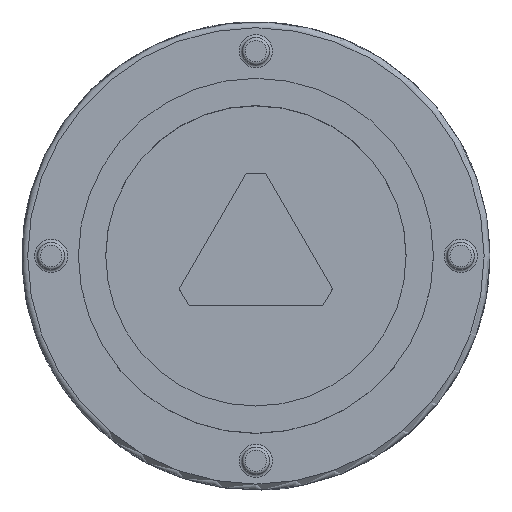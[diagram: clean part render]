
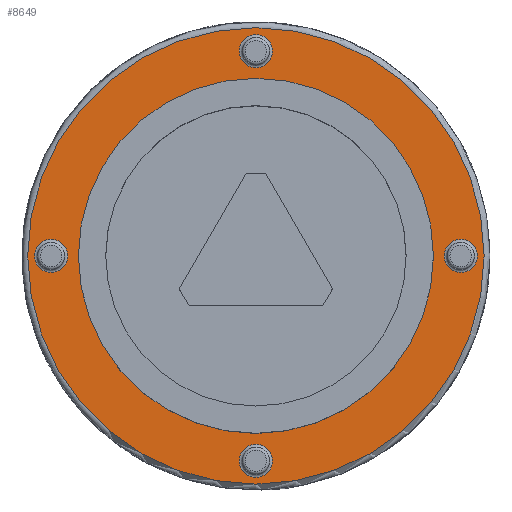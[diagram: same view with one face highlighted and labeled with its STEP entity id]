
A CAD part, top view. The second image highlights one B-rep face of the part: STEP entity #8649.
In plain terms, the highlighted planar face has unit normal (0, 0, 1).
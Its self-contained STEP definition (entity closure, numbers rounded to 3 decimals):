
#189 = FACE_BOUND ( 'NONE', #7221, .T. ) ;
#237 = CARTESIAN_POINT ( 'NONE',  ( 0., 0., 1.7 ) ) ;
#283 = PLANE ( 'NONE',  #8431 ) ;
#409 = DIRECTION ( 'NONE',  ( 0., 0., 1. ) ) ;
#720 = DIRECTION ( 'NONE',  ( 0., 0., -1. ) ) ;
#864 = EDGE_CURVE ( 'NONE', #8031, #8031, #6006, .T. ) ;
#1003 = FACE_OUTER_BOUND ( 'NONE', #9570, .T. ) ;
#1013 = AXIS2_PLACEMENT_3D ( 'NONE', #8205, #5308, #3706 ) ;
#1104 = CARTESIAN_POINT ( 'NONE',  ( 9.1, 0., 1.7 ) ) ;
#1160 = VERTEX_POINT ( 'NONE', #5599 ) ;
#1162 = DIRECTION ( 'NONE',  ( 1., 0., 0. ) ) ;
#1259 = CARTESIAN_POINT ( 'NONE',  ( -10.5, 0., 1.7 ) ) ;
#1487 = CIRCLE ( 'NONE', #3093, 0.85 ) ;
#1656 = DIRECTION ( 'NONE',  ( 1., 0., 0. ) ) ;
#1893 = ORIENTED_EDGE ( 'NONE', *, *, #5834, .T. ) ;
#2232 = DIRECTION ( 'NONE',  ( 1., 0., 0. ) ) ;
#2470 = DIRECTION ( 'NONE',  ( 0., 0., 1. ) ) ;
#2481 = ORIENTED_EDGE ( 'NONE', *, *, #6171, .T. ) ;
#2523 = DIRECTION ( 'NONE',  ( 1., 0., 0. ) ) ;
#2622 = FACE_BOUND ( 'NONE', #3409, .T. ) ;
#2687 = DIRECTION ( 'NONE',  ( 1., 0., 0. ) ) ;
#2794 = AXIS2_PLACEMENT_3D ( 'NONE', #1259, #8763, #2795 ) ;
#2795 = DIRECTION ( 'NONE',  ( 1., 0., 0. ) ) ;
#3093 = AXIS2_PLACEMENT_3D ( 'NONE', #5221, #720, #2232 ) ;
#3337 = CARTESIAN_POINT ( 'NONE',  ( 11.35, 0., 1.7 ) ) ;
#3409 = EDGE_LOOP ( 'NONE', ( #9629 ) ) ;
#3663 = ORIENTED_EDGE ( 'NONE', *, *, #8186, .T. ) ;
#3706 = DIRECTION ( 'NONE',  ( 1., 0., 0. ) ) ;
#3914 = EDGE_LOOP ( 'NONE', ( #3663 ) ) ;
#4993 = CARTESIAN_POINT ( 'NONE',  ( 10.5, 0., 1.7 ) ) ;
#5026 = CIRCLE ( 'NONE', #5343, 0.85 ) ;
#5146 = EDGE_CURVE ( 'NONE', #7336, #7336, #7110, .T. ) ;
#5221 = CARTESIAN_POINT ( 'NONE',  ( 0., 10.5, 1.7 ) ) ;
#5308 = DIRECTION ( 'NONE',  ( 0., 0., -1. ) ) ;
#5343 = AXIS2_PLACEMENT_3D ( 'NONE', #4993, #9708, #1162 ) ;
#5362 = CIRCLE ( 'NONE', #1013, 0.85 ) ;
#5518 = CIRCLE ( 'NONE', #2794, 0.85 ) ;
#5599 = CARTESIAN_POINT ( 'NONE',  ( 0.85, 10.5, 1.7 ) ) ;
#5631 = FACE_BOUND ( 'NONE', #7369, .T. ) ;
#5715 = CARTESIAN_POINT ( 'NONE',  ( 0., 0., 1.7 ) ) ;
#5834 = EDGE_CURVE ( 'NONE', #1160, #1160, #1487, .T. ) ;
#6006 = CIRCLE ( 'NONE', #6475, 11.7 ) ;
#6171 = EDGE_CURVE ( 'NONE', #6517, #6517, #5518, .T. ) ;
#6410 = CARTESIAN_POINT ( 'NONE',  ( 0.85, -10.5, 1.7 ) ) ;
#6475 = AXIS2_PLACEMENT_3D ( 'NONE', #5715, #409, #2687 ) ;
#6517 = VERTEX_POINT ( 'NONE', #9457 ) ;
#7110 = CIRCLE ( 'NONE', #7606, 9.1 ) ;
#7169 = DIRECTION ( 'NONE',  ( 0., 0., 1. ) ) ;
#7221 = EDGE_LOOP ( 'NONE', ( #1893 ) ) ;
#7226 = VERTEX_POINT ( 'NONE', #3337 ) ;
#7249 = EDGE_CURVE ( 'NONE', #7226, #7226, #5026, .T. ) ;
#7336 = VERTEX_POINT ( 'NONE', #1104 ) ;
#7369 = EDGE_LOOP ( 'NONE', ( #2481 ) ) ;
#7606 = AXIS2_PLACEMENT_3D ( 'NONE', #237, #2470, #1656 ) ;
#7921 = ORIENTED_EDGE ( 'NONE', *, *, #864, .T. ) ;
#7993 = CARTESIAN_POINT ( 'NONE',  ( 11.7, 0., 1.7 ) ) ;
#8028 = ORIENTED_EDGE ( 'NONE', *, *, #5146, .F. ) ;
#8031 = VERTEX_POINT ( 'NONE', #7993 ) ;
#8186 = EDGE_CURVE ( 'NONE', #8805, #8805, #5362, .T. ) ;
#8205 = CARTESIAN_POINT ( 'NONE',  ( 0., -10.5, 1.7 ) ) ;
#8413 = EDGE_LOOP ( 'NONE', ( #8028 ) ) ;
#8431 = AXIS2_PLACEMENT_3D ( 'NONE', #9536, #7169, #2523 ) ;
#8645 = FACE_BOUND ( 'NONE', #3914, .T. ) ;
#8649 = ADVANCED_FACE ( 'NONE', ( #8645, #2622, #189, #5631, #1003, #9488 ), #283, .T. ) ;
#8763 = DIRECTION ( 'NONE',  ( 0., 0., -1. ) ) ;
#8805 = VERTEX_POINT ( 'NONE', #6410 ) ;
#9457 = CARTESIAN_POINT ( 'NONE',  ( -9.65, 0., 1.7 ) ) ;
#9488 = FACE_BOUND ( 'NONE', #8413, .T. ) ;
#9536 = CARTESIAN_POINT ( 'NONE',  ( 0., 0., 1.7 ) ) ;
#9570 = EDGE_LOOP ( 'NONE', ( #7921 ) ) ;
#9629 = ORIENTED_EDGE ( 'NONE', *, *, #7249, .T. ) ;
#9708 = DIRECTION ( 'NONE',  ( 0., 0., -1. ) ) ;
